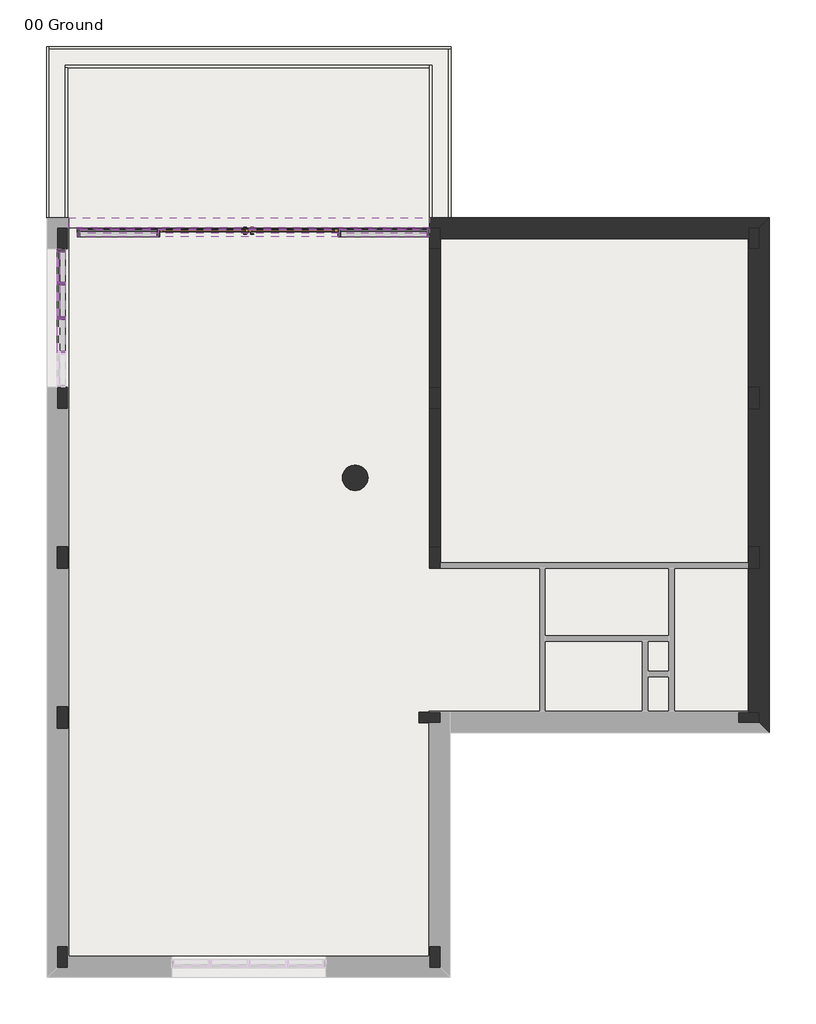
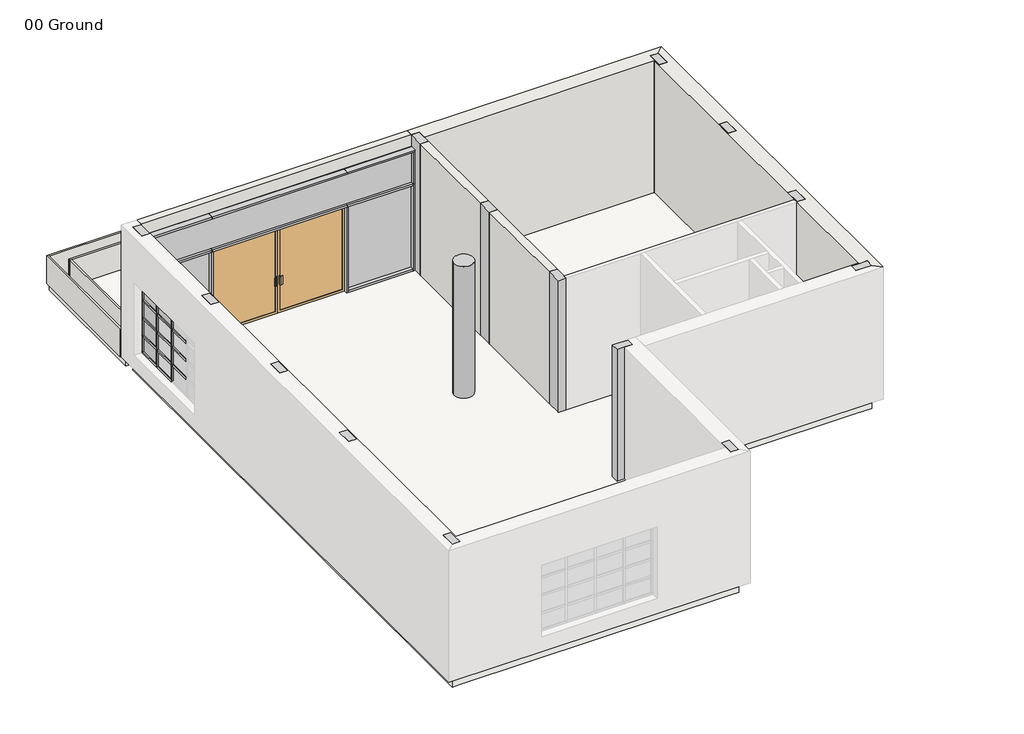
# One storey, part 2 of 2: 40 members, 15 columns, 11 walls, 8 plates, 3 slabs, 1 door.
"""IFC4 building model written with IfcOpenShell, lengths in millimetres."""

from ifc_helpers import new_model, si_unit, point, frame, frame_2d, origin, origin_with_axes, place, context, project, spatial, polyline, circle_curve, trimmed, segment, composite_curve, outline, extrude, faceted_brep, transform, mapped, element, save
from components import m_door_curtain_wall_double_storefront_m_door_curtain_wall_edb91ac7, rectangular_mullion_50_x_150mm_b8963a12, rectangular_mullion_50_x_150mm_ca64fab8, rectangular_mullion_50_x_150mm_c8600b0d, rectangular_mullion_50_x_150mm_7893aaae, rectangular_mullion_50_x_150mm_57f910c3, rectangular_mullion_50_x_150mm_ec782ea6, rectangular_mullion_50_x_150mm_8753ce05, rectangular_mullion_50_x_150mm_324a6438, rectangular_mullion_50_x_150mm_5618a3b2, rectangular_mullion_50_x_150mm_9d7ed0e7, rectangular_mullion_50_x_150mm_3942d5f1, rectangular_mullion_50_x_150mm_75048c14, rectangular_mullion_50_x_150mm_129a33a7, rectangular_mullion_50_x_150mm_05a43cda, rectangular_mullion_50_x_150mm_89c22e8d, rectangular_mullion_50_x_150mm_42d59fea, rectangular_mullion_50_x_150mm_da1b811e, rectangular_mullion_50_x_150mm_f26db0f6, rectangular_mullion_50_x_150mm_6f1e2b5c, system_panel_glazed_18425fd7, system_panel_glazed_f545c6ae, system_panel_glazed_1a6db426, system_panel_glazed_5c27190a, system_panel_glazed_2c1124f0, system_panel_solid_60e6722b

model = new_model("IFC4")

# Units and contexts
model_context = context("Model", 3, world=origin())
ifc_project = project(units=[si_unit("LENGTHUNIT", "METRE", prefix="MILLI")], contexts=[model_context])

# Site, building, storey
site = spatial("IfcSite", under=ifc_project)
building = spatial("IfcBuilding", under=site)
storey = spatial("IfcBuildingStorey", under=building, Name="00 Ground", Elevation=0.0)

# Columns
placement = place(None, origin())
element("IfcColumn", 1, ObjectType="M_Concrete-Rectangular-Column : 200 x 400mm", at=placement, inside=storey, context=model_context, shape_type="Brep", body=[
    faceted_brep([(-8122.5407999, 6337.2898352, 0.0), (-8122.5407999, 5937.2898352, 0.0), (-8322.5407999, 5937.2898352, 0.0), (-8322.5407999, 6337.2898352, 0.0), (-8122.5407999, 6337.2898352, 3500.0), (-8122.5407999, 5937.2898352, 3500.0), (-8122.5407999, 5937.2898352, 3200.0), (-8122.5407999, 5937.2898352, 2300.0), (-8122.5407999, 5937.2898352, 400.0), (-8122.5407999, 6337.2898352, 3200.0), (-8322.5407999, 5937.2898352, 3500.0), (-8322.5407999, 5937.2898352, 2300.0), (-8322.5407999, 5937.2898352, 400.0), (-8322.5407999, 6337.2898352, 3500.0)], [[[0, 1, 2, 3]], [[4, 5, 6, 7, 8, 1, 0, 9]], [[5, 10, 11, 12, 2, 1, 8, 7, 6]], [[10, 13, 3, 2, 12, 11]], [[13, 4, 9, 0, 3]], [[4, 13, 10, 5]]]),
])
element("IfcColumn", 2, ObjectType="M_Concrete-Rectangular-Column : 200 x 400mm", at=placement, inside=storey, context=model_context, shape_type="Brep", body=[
    faceted_brep([(-8122.5407999, 3337.2898352, 0.0), (-8122.5407999, 2937.2898352, 0.0), (-8322.5407999, 2937.2898352, 0.0), (-8322.5407999, 3337.2898352, 0.0), (-8122.5407999, 3337.2898352, 3500.0), (-8122.5407999, 2937.2898352, 3500.0), (-8122.5407999, 3337.2898352, 400.0), (-8122.5407999, 3337.2898352, 2300.0), (-8322.5407999, 2937.2898352, 3500.0), (-8322.5407999, 3337.2898352, 3500.0), (-8322.5407999, 3337.2898352, 2300.0), (-8322.5407999, 3337.2898352, 400.0)], [[[0, 1, 2, 3]], [[4, 5, 1, 0, 6, 7]], [[5, 8, 2, 1]], [[8, 9, 10, 11, 3, 2]], [[9, 4, 7, 6, 0, 3, 11, 10]], [[4, 9, 8, 5]]]),
])
element("IfcColumn", 3, ObjectType="M_Concrete-Rectangular-Column : 200 x 400mm", at=placement, inside=storey, context=model_context, shape_type="SweptSolid", body=[
    extrude(outline(polyline([(-8122.5407999, 337.2898352), (-8122.5407999, -62.7101648), (-8322.5407999, -62.7101648), (-8322.5407999, 337.2898352), (-8122.5407999, 337.2898352)])), origin_with_axes(), (0.0, 0.0, 1.0), 3500.0),
])
element("IfcColumn", 4, ObjectType="M_Concrete-Rectangular-Column : 200 x 400mm", at=placement, inside=storey, context=model_context, shape_type="SweptSolid", body=[
    extrude(outline(polyline([(-8122.5407999, -2662.7101648), (-8122.5407999, -3062.7101648), (-8322.5407999, -3062.7101648), (-8322.5407999, -2662.7101648), (-8122.5407999, -2662.7101648)])), origin_with_axes(), (0.0, 0.0, 1.0), 3500.0),
])
element("IfcColumn", 5, ObjectType="M_Concrete-Rectangular-Column : 200 x 400mm", at=placement, inside=storey, context=model_context, shape_type="SweptSolid", body=[
    extrude(outline(polyline([(-1122.5407999, 337.2898352), (-1122.5407999, -62.7101648), (-1322.5407999, -62.7101648), (-1322.5407999, 337.2898352), (-1122.5407999, 337.2898352)])), origin_with_axes(), (0.0, 0.0, 1.0), 3500.0),
])
element("IfcColumn", 6, ObjectType="M_Concrete-Rectangular-Column : 200 x 400mm", at=placement, inside=storey, context=model_context, shape_type="Brep", body=[
    faceted_brep([(-1522.5407999, -2762.7101648, 0.0), (-1335.5407999, -2762.7101648, 0.0), (-1122.5407999, -2762.7101648, 0.0), (-1122.5407999, -2962.7101648, 0.0), (-1335.5407999, -2962.7101648, 0.0), (-1522.5407999, -2962.7101648, 0.0), (-1522.5407999, -2762.7101648, 3500.0), (-1335.5407999, -2762.7101648, 3500.0), (-1122.5407999, -2762.7101648, 3500.0), (-1122.5407999, -2962.7101648, 3500.0), (-1335.5407999, -2962.7101648, 3500.0), (-1522.5407999, -2962.7101648, 3500.0)], [[[0, 1, 2, 3, 4, 5]], [[6, 7, 8, 2, 1, 0]], [[8, 9, 3, 2]], [[9, 10, 11, 5, 4, 3]], [[11, 6, 0, 5]], [[6, 11, 10, 9, 8, 7]]]),
])
element("IfcColumn", 7, ObjectType="M_Concrete-Rectangular-Column : 200 x 400mm", at=placement, inside=storey, context=model_context, shape_type="Brep", body=[
    faceted_brep([(4877.4592001, 6337.2898352, 0.0), (4877.4592001, 5937.2898352, 0.0), (4677.4592001, 5937.2898352, 0.0), (4677.4592001, 6137.2898352, 0.0), (4677.4592001, 6337.2898352, 0.0), (4877.4592001, 6337.2898352, 3500.0), (4877.4592001, 5937.2898352, 3500.0), (4677.4592001, 5937.2898352, 3500.0), (4677.4592001, 6137.2898352, 3500.0), (4677.4592001, 6337.2898352, 3500.0)], [[[0, 1, 2, 3, 4]], [[5, 6, 1, 0]], [[6, 7, 2, 1]], [[7, 8, 9, 4, 3, 2]], [[9, 5, 0, 4]], [[5, 9, 8, 7, 6]]]),
])
element("IfcColumn", 8, ObjectType="M_Concrete-Rectangular-Column : 200 x 400mm", at=placement, inside=storey, context=model_context, shape_type="Brep", body=[
    faceted_brep([(-1122.5407999, 6337.2898352, 0.0), (-1122.5407999, 6124.2898352, 0.0), (-1122.5407999, 5937.2898352, 0.0), (-1322.5407999, 5937.2898352, 0.0), (-1322.5407999, 6337.2898352, 0.0), (-1122.5407999, 6337.2898352, 3500.0), (-1122.5407999, 6124.2898352, 3500.0), (-1122.5407999, 5937.2898352, 3500.0), (-1322.5407999, 5937.2898352, 3500.0), (-1322.5407999, 6337.2898352, 3500.0)], [[[0, 1, 2, 3, 4]], [[5, 6, 7, 2, 1, 0]], [[7, 8, 3, 2]], [[8, 9, 4, 3]], [[9, 5, 0, 4]], [[5, 9, 8, 7, 6]]]),
])
element("IfcColumn", 9, ObjectType="M_Concrete-Rectangular-Column : 200 x 400mm", at=placement, inside=storey, context=model_context, shape_type="SweptSolid", body=[
    extrude(outline(polyline([(-1122.5407999, 3337.2898352), (-1122.5407999, 2937.2898352), (-1322.5407999, 2937.2898352), (-1322.5407999, 3337.2898352), (-1122.5407999, 3337.2898352)])), origin_with_axes(), (0.0, 0.0, 1.0), 3500.0),
])
element("IfcColumn", 10, ObjectType="M_Concrete-Rectangular-Column : 200 x 400mm", at=placement, inside=storey, context=model_context, shape_type="SweptSolid", body=[
    extrude(outline(polyline([(4877.4592001, 3337.2898352), (4877.4592001, 2937.2898352), (4677.4592001, 2937.2898352), (4677.4592001, 3337.2898352), (4877.4592001, 3337.2898352)])), origin_with_axes(), (0.0, 0.0, 1.0), 3500.0),
])
element("IfcColumn", 11, ObjectType="M_Concrete-Rectangular-Column : 200 x 400mm", at=placement, inside=storey, context=model_context, shape_type="Brep", body=[
    faceted_brep([(4477.4592001, -2762.7101648, 0.0), (4677.4592001, -2762.7101648, 0.0), (4877.4592001, -2762.7101648, 0.0), (4877.4592001, -2962.7101648, 0.0), (4477.4592001, -2962.7101648, 0.0), (4477.4592001, -2762.7101648, 3500.0), (4677.4592001, -2762.7101648, 3500.0), (4877.4592001, -2762.7101648, 3500.0), (4877.4592001, -2962.7101648, 3500.0), (4477.4592001, -2962.7101648, 3500.0)], [[[0, 1, 2, 3, 4]], [[5, 6, 7, 2, 1, 0]], [[7, 8, 3, 2]], [[8, 9, 4, 3]], [[9, 5, 0, 4]], [[5, 9, 8, 7, 6]]]),
])
element("IfcColumn", 12, ObjectType="M_Concrete-Rectangular-Column : 200 x 400mm", at=placement, inside=storey, context=model_context, shape_type="SweptSolid", body=[
    extrude(outline(polyline([(4677.4592001, -62.7101648), (4677.4592001, 337.2898352), (4877.4592001, 337.2898352), (4877.4592001, -62.7101648), (4677.4592001, -62.7101648)])), origin_with_axes(), (0.0, 0.0, 1.0), 3500.0),
])
element("IfcColumn", 13, ObjectType="M_Concrete-Rectangular-Column : 200 x 400mm", at=placement, inside=storey, context=model_context, shape_type="Brep", body=[
    faceted_brep([(-8122.5407999, -7162.7101648, 0.0), (-8122.5407999, -7362.7101648, 0.0), (-8122.5407999, -7562.7101648, 0.0), (-8322.5407999, -7562.7101648, 0.0), (-8322.5407999, -7162.7101648, 0.0), (-8122.5407999, -7162.7101648, 3500.0), (-8122.5407999, -7362.7101648, 3500.0), (-8122.5407999, -7562.7101648, 3500.0), (-8322.5407999, -7562.7101648, 3500.0), (-8322.5407999, -7162.7101648, 3500.0)], [[[0, 1, 2, 3, 4]], [[5, 6, 7, 2, 1, 0]], [[7, 8, 3, 2]], [[8, 9, 4, 3]], [[9, 5, 0, 4]], [[5, 9, 8, 7, 6]]]),
])
element("IfcColumn", 14, ObjectType="M_Concrete-Rectangular-Column : 200 x 400mm", at=placement, inside=storey, context=model_context, shape_type="Brep", body=[
    faceted_brep([(-1122.5407999, -7162.7101648, 0.0), (-1122.5407999, -7562.7101648, 0.0), (-1322.5407999, -7562.7101648, 0.0), (-1322.5407999, -7362.7101648, 0.0), (-1322.5407999, -7162.7101648, 0.0), (-1122.5407999, -7162.7101648, 3500.0), (-1122.5407999, -7562.7101648, 3500.0), (-1322.5407999, -7562.7101648, 3500.0), (-1322.5407999, -7362.7101648, 3500.0), (-1322.5407999, -7162.7101648, 3500.0)], [[[0, 1, 2, 3, 4]], [[5, 6, 1, 0]], [[6, 7, 2, 1]], [[7, 8, 9, 4, 3, 2]], [[9, 5, 0, 4]], [[5, 9, 8, 7, 6]]]),
])
element("IfcColumn", 15, ObjectType="M_Concrete-Round-Column : 480mm", at=placement, inside=storey, context=model_context, shape_type="SweptSolid", body=[
    extrude(outline(composite_curve([segment(trimmed(circle_curve(frame_2d((-2722.5407999, 1637.2898352)), 240.0), [point((-2962.5407999, 1637.2898352))], [point((-2482.5407999, 1637.2898352))], False, "CARTESIAN"), True, "CONTINUOUS"), segment(trimmed(circle_curve(frame_2d((-2722.5407999, 1637.2898352)), 240.0), [point((-2482.5407999, 1637.2898352))], [point((-2962.5407999, 1637.2898352))], False, "CARTESIAN"), True, "CONTINUOUS")], self_intersect=False)), origin_with_axes(), (0.0, 0.0, 1.0), 3500.0),
])

# Door
m_door_curtain_wall_double_storefront_m_door_curtain_wall_shape = m_door_curtain_wall_double_storefront_m_door_curtain_wall_edb91ac7(model_context)
element("IfcDoor", 16, ObjectType="M_Door-Curtain-Wall-Double-Storefront : M_Door-Curtain-Wall-Double-Storefront", at=placement, inside=storey, context=model_context, shape_type="MappedRepresentation", body=[
    mapped(m_door_curtain_wall_double_storefront_m_door_curtain_wall_shape, transform((-4722.5407999, 6242.2898352, 0.0), x_axis=(1.0, 0.0, 0.0), y_axis=(0.0, 1.0, 0.0), z_axis=(0.0, 0.0, 1.0))),
])

# Members
rectangular_mullion_50_x_150mm_shape = rectangular_mullion_50_x_150mm_b8963a12(model_context)
element("IfcMember", 17, ObjectType="Rectangular Mullion : 50 x 150mm", at=placement, inside=storey, context=model_context, shape_type="MappedRepresentation", body=[
    mapped(rectangular_mullion_50_x_150mm_shape, transform((-2997.5407999, 6242.2898352, 0.0), x_axis=(0.0, 0.0, -1.0), y_axis=(0.0, -1.0, 0.0), z_axis=(-1.0, 0.0, 0.0))),
])
rectangular_mullion_50_x_150mm_2_shape = rectangular_mullion_50_x_150mm_ca64fab8(model_context)
element("IfcMember", 18, ObjectType="Rectangular Mullion : 50 x 150mm", at=placement, inside=storey, context=model_context, shape_type="MappedRepresentation", body=[
    mapped(rectangular_mullion_50_x_150mm_2_shape, transform((-3022.5407999, 6242.2898352, 3200.0), x_axis=(0.0, 0.0, 1.0), y_axis=(0.0, -1.0, 0.0), z_axis=(1.0, 0.0, 0.0))),
])
rectangular_mullion_50_x_150mm_3_shape = rectangular_mullion_50_x_150mm_c8600b0d(model_context)
element("IfcMember", 19, ObjectType="Rectangular Mullion : 50 x 150mm", at=placement, inside=storey, context=model_context, shape_type="MappedRepresentation", body=[
    mapped(rectangular_mullion_50_x_150mm_3_shape, transform((-1322.5407999, 6242.2898352, 3200.0), x_axis=(0.0, 0.0, 1.0), y_axis=(0.0, -1.0, 0.0), z_axis=(1.0, 0.0, 0.0))),
])
rectangular_mullion_50_x_150mm_4_shape = rectangular_mullion_50_x_150mm_7893aaae(model_context)
element("IfcMember", 20, ObjectType="Rectangular Mullion : 50 x 150mm", at=placement, inside=storey, context=model_context, shape_type="MappedRepresentation", body=[
    mapped(rectangular_mullion_50_x_150mm_4_shape, transform((-1372.5407999, 6242.2898352, 2300.0), x_axis=(0.0, 0.0, 1.0), y_axis=(0.0, -1.0, 0.0), z_axis=(1.0, 0.0, 0.0))),
])
rectangular_mullion_50_x_150mm_5_shape = rectangular_mullion_50_x_150mm_57f910c3(model_context)
element("IfcMember", 21, ObjectType="Rectangular Mullion : 50 x 150mm", at=placement, inside=storey, context=model_context, shape_type="MappedRepresentation", body=[
    mapped(rectangular_mullion_50_x_150mm_5_shape, transform((-3022.5407999, 6242.2898352, 2300.0), x_axis=(0.0, 0.0, 1.0), y_axis=(0.0, -1.0, 0.0), z_axis=(1.0, 0.0, 0.0))),
])
rectangular_mullion_50_x_150mm_6_shape = rectangular_mullion_50_x_150mm_ec782ea6(model_context)
element("IfcMember", 22, ObjectType="Rectangular Mullion : 50 x 150mm", at=placement, inside=storey, context=model_context, shape_type="MappedRepresentation", body=[
    mapped(rectangular_mullion_50_x_150mm_6_shape, transform((-6422.5407999, 6242.2898352, 0.0), x_axis=(1.0, 0.0, 0.0), y_axis=(0.0, -1.0, 0.0), z_axis=(0.0, 0.0, -1.0))),
])
element("IfcMember", 23, ObjectType="Rectangular Mullion : 50 x 150mm", at=placement, inside=storey, context=model_context, shape_type="MappedRepresentation", body=[
    mapped(rectangular_mullion_50_x_150mm_6_shape, transform((-3022.5407999, 6242.2898352, 0.0), x_axis=(1.0, 0.0, 0.0), y_axis=(0.0, -1.0, 0.0), z_axis=(0.0, 0.0, -1.0))),
])
rectangular_mullion_50_x_150mm_7_shape = rectangular_mullion_50_x_150mm_8753ce05(model_context)
element("IfcMember", 24, ObjectType="Rectangular Mullion : 50 x 150mm", at=placement, inside=storey, context=model_context, shape_type="MappedRepresentation", body=[
    mapped(rectangular_mullion_50_x_150mm_7_shape, transform((-1322.5407999, 6242.2898352, 0.0), x_axis=(1.0, 0.0, 0.0), y_axis=(0.0, -1.0, 0.0), z_axis=(0.0, 0.0, -1.0))),
])
rectangular_mullion_50_x_150mm_8_shape = rectangular_mullion_50_x_150mm_324a6438(model_context)
element("IfcMember", 25, ObjectType="Rectangular Mullion : 50 x 150mm", at=placement, inside=storey, context=model_context, shape_type="MappedRepresentation", body=[
    mapped(rectangular_mullion_50_x_150mm_8_shape, transform((-7946.0407999, 6242.2898352, 3150.0), x_axis=(-1.0, 0.0, 0.0), y_axis=(0.0, -1.0, 0.0), z_axis=(0.0, 0.0, 1.0))),
])
element("IfcMember", 26, ObjectType="Rectangular Mullion : 50 x 150mm", at=placement, inside=storey, context=model_context, shape_type="MappedRepresentation", body=[
    mapped(rectangular_mullion_50_x_150mm_8_shape, transform((-1322.5407999, 6242.2898352, 2300.0), x_axis=(1.0, 0.0, 0.0), y_axis=(0.0, -1.0, 0.0), z_axis=(0.0, 0.0, -1.0))),
])
element("IfcMember", 27, ObjectType="Rectangular Mullion : 50 x 150mm", at=placement, inside=storey, context=model_context, shape_type="MappedRepresentation", body=[
    mapped(rectangular_mullion_50_x_150mm_7_shape, transform((-7946.0407999, 6242.2898352, 2300.0), x_axis=(-1.0, 0.0, 0.0), y_axis=(0.0, -1.0, 0.0), z_axis=(0.0, 0.0, 1.0))),
])
rectangular_mullion_50_x_150mm_9_shape = rectangular_mullion_50_x_150mm_5618a3b2(model_context)
element("IfcMember", 28, ObjectType="Rectangular Mullion : 50 x 150mm", at=placement, inside=storey, context=model_context, shape_type="MappedRepresentation", body=[
    mapped(rectangular_mullion_50_x_150mm_9_shape, transform((-8247.5407999, 5937.2898352, 2300.0), x_axis=(0.0, 0.0, 1.0), y_axis=(1.0, 0.0, 0.0), z_axis=(0.0, 1.0, 0.0))),
])
rectangular_mullion_50_x_150mm_10_shape = rectangular_mullion_50_x_150mm_9d7ed0e7(model_context)
element("IfcMember", 29, ObjectType="Rectangular Mullion : 50 x 150mm", at=placement, inside=storey, context=model_context, shape_type="MappedRepresentation", body=[
    mapped(rectangular_mullion_50_x_150mm_10_shape, transform((-8247.5407999, 4637.2898352, 2300.0), x_axis=(0.0, 0.0, 1.0), y_axis=(1.0, 0.0, 0.0), z_axis=(0.0, 1.0, 0.0))),
])
element("IfcMember", 30, ObjectType="Rectangular Mullion : 50 x 150mm", at=placement, inside=storey, context=model_context, shape_type="MappedRepresentation", body=[
    mapped(rectangular_mullion_50_x_150mm_10_shape, transform((-8247.5407999, 5287.2898351, 2300.0), x_axis=(0.0, 0.0, 1.0), y_axis=(1.0, 0.0, 0.0), z_axis=(0.0, 1.0, 0.0))),
])
element("IfcMember", 31, ObjectType="Rectangular Mullion : 50 x 150mm", at=placement, inside=storey, context=model_context, shape_type="MappedRepresentation", body=[
    mapped(rectangular_mullion_50_x_150mm_10_shape, transform((-8247.5407999, 4637.2898352, 400.0), x_axis=(0.0, 0.0, -1.0), y_axis=(1.0, 0.0, 0.0), z_axis=(0.0, -1.0, 0.0))),
])
element("IfcMember", 32, ObjectType="Rectangular Mullion : 50 x 150mm", at=placement, inside=storey, context=model_context, shape_type="MappedRepresentation", body=[
    mapped(rectangular_mullion_50_x_150mm_9_shape, transform((-8247.5407999, 5287.2898351, 400.0), x_axis=(0.0, 0.0, -1.0), y_axis=(1.0, 0.0, 0.0), z_axis=(0.0, -1.0, 0.0))),
])
rectangular_mullion_50_x_150mm_11_shape = rectangular_mullion_50_x_150mm_3942d5f1(model_context)
element("IfcMember", 33, ObjectType="Rectangular Mullion : 50 x 150mm", at=placement, inside=storey, context=model_context, shape_type="MappedRepresentation", body=[
    mapped(rectangular_mullion_50_x_150mm_11_shape, transform((-8247.5407999, 5887.2898352, 875.0), x_axis=(0.0, 0.0, 1.0), y_axis=(1.0, 0.0, 0.0), z_axis=(0.0, 1.0, 0.0))),
])
element("IfcMember", 34, ObjectType="Rectangular Mullion : 50 x 150mm", at=placement, inside=storey, context=model_context, shape_type="MappedRepresentation", body=[
    mapped(rectangular_mullion_50_x_150mm_11_shape, transform((-8247.5407999, 5887.2898352, 1350.0), x_axis=(0.0, 0.0, 1.0), y_axis=(1.0, 0.0, 0.0), z_axis=(0.0, 1.0, 0.0))),
])
element("IfcMember", 35, ObjectType="Rectangular Mullion : 50 x 150mm", at=placement, inside=storey, context=model_context, shape_type="MappedRepresentation", body=[
    mapped(rectangular_mullion_50_x_150mm_11_shape, transform((-8247.5407999, 5887.2898352, 1825.0), x_axis=(0.0, 0.0, 1.0), y_axis=(1.0, 0.0, 0.0), z_axis=(0.0, 1.0, 0.0))),
])
rectangular_mullion_50_x_150mm_12_shape = rectangular_mullion_50_x_150mm_75048c14(model_context)
element("IfcMember", 36, ObjectType="Rectangular Mullion : 50 x 150mm", at=placement, inside=storey, context=model_context, shape_type="MappedRepresentation", body=[
    mapped(rectangular_mullion_50_x_150mm_12_shape, transform((-8247.5407999, 4612.2898352, 875.0), x_axis=(0.0, 0.0, 1.0), y_axis=(1.0, 0.0, 0.0), z_axis=(0.0, 1.0, 0.0))),
])
element("IfcMember", 37, ObjectType="Rectangular Mullion : 50 x 150mm", at=placement, inside=storey, context=model_context, shape_type="MappedRepresentation", body=[
    mapped(rectangular_mullion_50_x_150mm_12_shape, transform((-8247.5407999, 5262.2898351, 875.0), x_axis=(0.0, 0.0, 1.0), y_axis=(1.0, 0.0, 0.0), z_axis=(0.0, 1.0, 0.0))),
])
element("IfcMember", 38, ObjectType="Rectangular Mullion : 50 x 150mm", at=placement, inside=storey, context=model_context, shape_type="MappedRepresentation", body=[
    mapped(rectangular_mullion_50_x_150mm_12_shape, transform((-8247.5407999, 4612.2898352, 1350.0), x_axis=(0.0, 0.0, 1.0), y_axis=(1.0, 0.0, 0.0), z_axis=(0.0, 1.0, 0.0))),
])
element("IfcMember", 39, ObjectType="Rectangular Mullion : 50 x 150mm", at=placement, inside=storey, context=model_context, shape_type="MappedRepresentation", body=[
    mapped(rectangular_mullion_50_x_150mm_12_shape, transform((-8247.5407999, 5262.2898351, 1350.0), x_axis=(0.0, 0.0, 1.0), y_axis=(1.0, 0.0, 0.0), z_axis=(0.0, 1.0, 0.0))),
])
element("IfcMember", 40, ObjectType="Rectangular Mullion : 50 x 150mm", at=placement, inside=storey, context=model_context, shape_type="MappedRepresentation", body=[
    mapped(rectangular_mullion_50_x_150mm_12_shape, transform((-8247.5407999, 4612.2898352, 1825.0), x_axis=(0.0, 0.0, 1.0), y_axis=(1.0, 0.0, 0.0), z_axis=(0.0, 1.0, 0.0))),
])
element("IfcMember", 41, ObjectType="Rectangular Mullion : 50 x 150mm", at=placement, inside=storey, context=model_context, shape_type="MappedRepresentation", body=[
    mapped(rectangular_mullion_50_x_150mm_12_shape, transform((-8247.5407999, 5262.2898351, 1825.0), x_axis=(0.0, 0.0, 1.0), y_axis=(1.0, 0.0, 0.0), z_axis=(0.0, 1.0, 0.0))),
])
rectangular_mullion_50_x_150mm_13_shape = rectangular_mullion_50_x_150mm_129a33a7(model_context)
element("IfcMember", 42, ObjectType="Rectangular Mullion : 50 x 150mm", at=placement, inside=storey, context=model_context, shape_type="MappedRepresentation", body=[
    mapped(rectangular_mullion_50_x_150mm_13_shape, transform((-8247.5407999, 4637.2898352, 450.0), x_axis=(0.0, 1.0, 0.0), y_axis=(1.0, 0.0, 0.0), z_axis=(0.0, 0.0, -1.0))),
])
element("IfcMember", 43, ObjectType="Rectangular Mullion : 50 x 150mm", at=placement, inside=storey, context=model_context, shape_type="MappedRepresentation", body=[
    mapped(rectangular_mullion_50_x_150mm_13_shape, transform((-8247.5407999, 5287.2898351, 450.0), x_axis=(0.0, 1.0, 0.0), y_axis=(1.0, 0.0, 0.0), z_axis=(0.0, 0.0, -1.0))),
])
rectangular_mullion_50_x_150mm_14_shape = rectangular_mullion_50_x_150mm_05a43cda(model_context)
element("IfcMember", 44, ObjectType="Rectangular Mullion : 50 x 150mm", at=placement, inside=storey, context=model_context, shape_type="MappedRepresentation", body=[
    mapped(rectangular_mullion_50_x_150mm_14_shape, transform((-8247.5407999, 4637.2898352, 875.0), x_axis=(0.0, 1.0, 0.0), y_axis=(1.0, 0.0, 0.0), z_axis=(0.0, 0.0, -1.0))),
])
element("IfcMember", 45, ObjectType="Rectangular Mullion : 50 x 150mm", at=placement, inside=storey, context=model_context, shape_type="MappedRepresentation", body=[
    mapped(rectangular_mullion_50_x_150mm_14_shape, transform((-8247.5407999, 5287.2898351, 875.0), x_axis=(0.0, 1.0, 0.0), y_axis=(1.0, 0.0, 0.0), z_axis=(0.0, 0.0, -1.0))),
])
element("IfcMember", 46, ObjectType="Rectangular Mullion : 50 x 150mm", at=placement, inside=storey, context=model_context, shape_type="MappedRepresentation", body=[
    mapped(rectangular_mullion_50_x_150mm_14_shape, transform((-8247.5407999, 4637.2898352, 1350.0), x_axis=(0.0, 1.0, 0.0), y_axis=(1.0, 0.0, 0.0), z_axis=(0.0, 0.0, -1.0))),
])
element("IfcMember", 47, ObjectType="Rectangular Mullion : 50 x 150mm", at=placement, inside=storey, context=model_context, shape_type="MappedRepresentation", body=[
    mapped(rectangular_mullion_50_x_150mm_14_shape, transform((-8247.5407999, 5287.2898351, 1350.0), x_axis=(0.0, 1.0, 0.0), y_axis=(1.0, 0.0, 0.0), z_axis=(0.0, 0.0, -1.0))),
])
element("IfcMember", 48, ObjectType="Rectangular Mullion : 50 x 150mm", at=placement, inside=storey, context=model_context, shape_type="MappedRepresentation", body=[
    mapped(rectangular_mullion_50_x_150mm_13_shape, transform((-8247.5407999, 4637.2898352, 1825.0), x_axis=(0.0, 1.0, 0.0), y_axis=(1.0, 0.0, 0.0), z_axis=(0.0, 0.0, -1.0))),
])
element("IfcMember", 49, ObjectType="Rectangular Mullion : 50 x 150mm", at=placement, inside=storey, context=model_context, shape_type="MappedRepresentation", body=[
    mapped(rectangular_mullion_50_x_150mm_13_shape, transform((-8247.5407999, 5287.2898351, 1825.0), x_axis=(0.0, 1.0, 0.0), y_axis=(1.0, 0.0, 0.0), z_axis=(0.0, 0.0, -1.0))),
])
rectangular_mullion_50_x_150mm_15_shape = rectangular_mullion_50_x_150mm_89c22e8d(model_context)
element("IfcMember", 50, ObjectType="Rectangular Mullion : 50 x 150mm", at=placement, inside=storey, context=model_context, shape_type="MappedRepresentation", body=[
    mapped(rectangular_mullion_50_x_150mm_15_shape, transform((-8247.5407999, 5937.2898352, 450.0), x_axis=(0.0, 1.0, 0.0), y_axis=(1.0, 0.0, 0.0), z_axis=(0.0, 0.0, -1.0))),
])
rectangular_mullion_50_x_150mm_16_shape = rectangular_mullion_50_x_150mm_42d59fea(model_context)
element("IfcMember", 51, ObjectType="Rectangular Mullion : 50 x 150mm", at=placement, inside=storey, context=model_context, shape_type="MappedRepresentation", body=[
    mapped(rectangular_mullion_50_x_150mm_16_shape, transform((-8247.5407999, 5937.2898352, 875.0), x_axis=(0.0, 1.0, 0.0), y_axis=(1.0, 0.0, 0.0), z_axis=(0.0, 0.0, -1.0))),
])
element("IfcMember", 52, ObjectType="Rectangular Mullion : 50 x 150mm", at=placement, inside=storey, context=model_context, shape_type="MappedRepresentation", body=[
    mapped(rectangular_mullion_50_x_150mm_16_shape, transform((-8247.5407999, 5937.2898352, 1350.0), x_axis=(0.0, 1.0, 0.0), y_axis=(1.0, 0.0, 0.0), z_axis=(0.0, 0.0, -1.0))),
])
element("IfcMember", 53, ObjectType="Rectangular Mullion : 50 x 150mm", at=placement, inside=storey, context=model_context, shape_type="MappedRepresentation", body=[
    mapped(rectangular_mullion_50_x_150mm_15_shape, transform((-8247.5407999, 5937.2898352, 1825.0), x_axis=(0.0, 1.0, 0.0), y_axis=(1.0, 0.0, 0.0), z_axis=(0.0, 0.0, -1.0))),
])
rectangular_mullion_50_x_150mm_17_shape = rectangular_mullion_50_x_150mm_da1b811e(model_context)
element("IfcMember", 54, ObjectType="Rectangular Mullion : 50 x 150mm", at=placement, inside=storey, context=model_context, shape_type="MappedRepresentation", body=[
    mapped(rectangular_mullion_50_x_150mm_17_shape, transform((-6422.5407999, 6242.2898352, 3200.0), x_axis=(0.0, 0.0, 1.0), y_axis=(0.0, -1.0, 0.0), z_axis=(1.0, 0.0, 0.0))),
])
rectangular_mullion_50_x_150mm_18_shape = rectangular_mullion_50_x_150mm_f26db0f6(model_context)
element("IfcMember", 55, ObjectType="Rectangular Mullion : 50 x 150mm", at=placement, inside=storey, context=model_context, shape_type="MappedRepresentation", body=[
    mapped(rectangular_mullion_50_x_150mm_18_shape, transform((-7896.0407999, 6242.2898352, 0.0), x_axis=(0.0, 0.0, -1.0), y_axis=(0.0, -1.0, 0.0), z_axis=(-1.0, 0.0, 0.0))),
])
rectangular_mullion_50_x_150mm_19_shape = rectangular_mullion_50_x_150mm_6f1e2b5c(model_context)
element("IfcMember", 56, ObjectType="Rectangular Mullion : 50 x 150mm", at=placement, inside=storey, context=model_context, shape_type="MappedRepresentation", body=[
    mapped(rectangular_mullion_50_x_150mm_19_shape, transform((-6422.5407999, 6242.2898352, 2300.0), x_axis=(0.0, 0.0, 1.0), y_axis=(0.0, -1.0, 0.0), z_axis=(1.0, 0.0, 0.0))),
])

# Plates
system_panel_glazed_shape = system_panel_glazed_18425fd7(model_context)
element("IfcPlate", 57, ObjectType="System Panel : Glazed", at=placement, inside=storey, context=model_context, shape_type="MappedRepresentation", body=[
    mapped(system_panel_glazed_shape, transform((-2185.0407999, 6242.2898352, 50.0), x_axis=(1.0, 0.0, 0.0), y_axis=(0.0, 1.0, 0.0), z_axis=(0.0, 0.0, 1.0))),
])
system_panel_glazed_2_shape = system_panel_glazed_f545c6ae(model_context)
element("IfcPlate", 58, ObjectType="System Panel : Glazed", at=placement, inside=storey, context=model_context, shape_type="MappedRepresentation", body=[
    mapped(system_panel_glazed_2_shape, transform((-8247.5407999, 5599.7898352, 450.0), x_axis=(0.0, 1.0, 0.0), y_axis=(-1.0, 0.0, 0.0), z_axis=(0.0, 0.0, 1.0))),
])
element("IfcPlate", 59, ObjectType="System Panel : Glazed", at=placement, inside=storey, context=model_context, shape_type="MappedRepresentation", body=[
    mapped(system_panel_glazed_2_shape, transform((-8247.5407999, 5599.7898352, 1850.0), x_axis=(0.0, 1.0, 0.0), y_axis=(-1.0, 0.0, 0.0), z_axis=(0.0, 0.0, 1.0))),
])
system_panel_glazed_3_shape = system_panel_glazed_1a6db426(model_context)
element("IfcPlate", 60, ObjectType="System Panel : Glazed", at=placement, inside=storey, context=model_context, shape_type="MappedRepresentation", body=[
    mapped(system_panel_glazed_3_shape, transform((-8247.5407999, 4962.2898352, 1850.0), x_axis=(0.0, 1.0, 0.0), y_axis=(-1.0, 0.0, 0.0), z_axis=(0.0, 0.0, 1.0))),
])
system_panel_glazed_4_shape = system_panel_glazed_5c27190a(model_context)
element("IfcPlate", 61, ObjectType="System Panel : Glazed", at=placement, inside=storey, context=model_context, shape_type="MappedRepresentation", body=[
    mapped(system_panel_glazed_4_shape, transform((-8247.5407999, 5599.7898352, 900.0), x_axis=(0.0, 1.0, 0.0), y_axis=(-1.0, 0.0, 0.0), z_axis=(0.0, 0.0, 1.0))),
])
element("IfcPlate", 62, ObjectType="System Panel : Glazed", at=placement, inside=storey, context=model_context, shape_type="MappedRepresentation", body=[
    mapped(system_panel_glazed_4_shape, transform((-8247.5407999, 5599.7898352, 1375.0), x_axis=(0.0, 1.0, 0.0), y_axis=(-1.0, 0.0, 0.0), z_axis=(0.0, 0.0, 1.0))),
])
system_panel_glazed_5_shape = system_panel_glazed_2c1124f0(model_context)
element("IfcPlate", 63, ObjectType="System Panel : Glazed", at=placement, inside=storey, context=model_context, shape_type="MappedRepresentation", body=[
    mapped(system_panel_glazed_5_shape, transform((-7171.7907999, 6242.2898352, 50.0), x_axis=(1.0, 0.0, 0.0), y_axis=(0.0, 1.0, 0.0), z_axis=(0.0, 0.0, 1.0))),
])
system_panel_solid_shape = system_panel_solid_60e6722b(model_context)
element("IfcPlate", 64, ObjectType="System Panel : Solid", at=placement, inside=storey, context=model_context, shape_type="MappedRepresentation", body=[
    mapped(system_panel_solid_shape, transform((-4634.2907999, 6242.2898352, 2325.0), x_axis=(1.0, 0.0, 0.0), y_axis=(0.0, 1.0, 0.0), z_axis=(0.0, 0.0, 1.0))),
])

# Slabs
element("IfcSlab", 65, ObjectType="DECK FLOOR TILES 40mm", at=placement, inside=storey, context=model_context, shape_type="SweptSolid", body=[
    extrude(outline(polyline([(-1322.5407999, 6337.2898352), (-8122.5407999, 6337.2898352), (-8122.5407999, 9337.2898352), (-1322.5407999, 9337.2898352), (-1322.5407999, 6337.2898352)])), origin_with_axes(), (0.0, 0.0, 1.0), 40.0),
])
element("IfcSlab", 66, ObjectType="Generic 300mm", at=placement, inside=storey, context=model_context, shape_type="Brep", body=[
    faceted_brep([(-8322.5407999, 6337.2898352, -300.0), (-8122.5407999, 6337.2898352, -300.0), (-1322.5407999, 6337.2898352, -300.0), (-1122.5407999, 6337.2898352, -300.0), (4677.4592001, 6337.2898352, -300.0), (4877.4592001, 6337.2898352, -300.0), (4877.4592001, 5937.2898352, -300.0), (4877.4592001, 3337.2898352, -300.0), (4877.4592001, 2937.2898352, -300.0), (4877.4592001, 337.2898352, -300.0), (4877.4592001, -62.7101648, -300.0), (4877.4592001, -2762.7101648, -300.0), (4877.4592001, -2962.7101648, -300.0), (4477.4592001, -2962.7101648, -300.0), (-1122.5407999, -2962.7101648, -300.0), (-1122.5407999, -7162.7101648, -300.0), (-1122.5407999, -7562.7101648, -300.0), (-1322.5407999, -7562.7101648, -300.0), (-8122.5407999, -7562.7101648, -300.0), (-8322.5407999, -7562.7101648, -300.0), (-8322.5407999, -7162.7101648, -300.0), (-8322.5407999, -3062.7101648, -300.0), (-8322.5407999, -2662.7101648, -300.0), (-8322.5407999, -62.7101648, -300.0), (-8322.5407999, 337.2898352, -300.0), (-8322.5407999, 2937.2898352, -300.0), (-8322.5407999, 3337.2898352, -300.0), (-8322.5407999, 5937.2898352, -300.0), (-8322.5407999, 6337.2898352, 0.0), (-8322.5407999, 5937.2898352, 0.0), (-8322.5407999, 3337.2898352, 0.0), (-8322.5407999, 2937.2898352, 0.0), (-8322.5407999, 337.2898352, 0.0), (-8322.5407999, -62.7101648, 0.0), (-8322.5407999, -2662.7101648, 0.0), (-8322.5407999, -3062.7101648, 0.0), (-8322.5407999, -7162.7101648, 0.0), (-8322.5407999, -7562.7101648, 0.0), (-8122.5407999, -7562.7101648, 0.0), (-1322.5407999, -7562.7101648, 0.0), (-1122.5407999, -7562.7101648, 0.0), (-1122.5407999, -7162.7101648, 0.0), (-1122.5407999, -2962.7101648, 0.0), (4477.4592001, -2962.7101648, 0.0), (4877.4592001, -2962.7101648, 0.0), (4877.4592001, -2762.7101648, 0.0), (4877.4592001, -62.7101648, 0.0), (4877.4592001, 337.2898352, 0.0), (4877.4592001, 2937.2898352, 0.0), (4877.4592001, 3337.2898352, 0.0), (4877.4592001, 5937.2898352, 0.0), (4877.4592001, 6337.2898352, 0.0), (4677.4592001, 6337.2898352, 0.0), (-1122.5407999, 6337.2898352, 0.0), (-1322.5407999, 6337.2898352, 0.0), (-8122.5407999, 6337.2898352, 0.0)], [[[0, 1, 2, 3, 4, 5, 6, 7, 8, 9, 10, 11, 12, 13, 14, 15, 16, 17, 18, 19, 20, 21, 22, 23, 24, 25, 26, 27]], [[28, 29, 30, 31, 32, 33, 34, 35, 36, 37, 38, 39, 40, 41, 42, 43, 44, 45, 46, 47, 48, 49, 50, 51, 52, 53, 54, 55]], [[5, 4, 3, 2, 1, 0, 28, 55, 54, 53, 52, 51]], [[12, 11, 10, 9, 8, 7, 6, 5, 51, 50, 49, 48, 47, 46, 45, 44]], [[14, 13, 12, 44, 43, 42]], [[16, 15, 14, 42, 41, 40]], [[19, 18, 17, 16, 40, 39, 38, 37]], [[0, 27, 26, 25, 24, 23, 22, 21, 20, 19, 37, 36, 35, 34, 33, 32, 31, 30, 29, 28]]]),
])
element("IfcSlab", 67, ObjectType="TERRACE SLAB 150mm", at=placement, inside=storey, context=model_context, shape_type="SweptSolid", body=[
    extrude(outline(polyline([(-967.5407999, 9692.2898352), (-967.5407999, 6522.2898352), (-1322.5407999, 6522.2898352), (-1322.5407999, 6337.2898352), (-8109.5407999, 6337.2898352), (-8109.5407999, 6359.7898352), (-8477.5407999, 6359.7898352), (-8477.5407999, 9692.2898352), (-967.5407999, 9692.2898352)])), frame((0.0, 0.0, -150.0), z_axis=(0.0, 0.0, 1.0), x_axis=(1.0, 0.0, 0.0)), (0.0, 0.0, 1.0), 150.0),
])

# Walls
element("IfcWall", 68, ObjectType="45T-25linea", at=placement, inside=storey, context=model_context, shape_type="SweptSolid", body=[
    extrude(outline(polyline([(-967.5407999, 6409.7898352), (-1122.5407999, 6409.7898352), (-1122.5407999, 6454.7898352), (-967.5407999, 6454.7898352), (-967.5407999, 6409.7898352)])), origin_with_axes(), (0.0, 0.0, 1.0), 750.0),
])
element("IfcWall", 69, ObjectType="45T-25linea", at=placement, inside=storey, context=model_context, shape_type="Brep", body=[
    faceted_brep([(-8477.5407999, 6522.2898352, 0.0), (-8477.5407999, 9692.2898352, 0.0), (-8477.5407999, 9737.2898352, 0.0), (-8477.5407999, 9737.2898352, 750.0), (-8477.5407999, 9692.2898352, 750.0), (-8477.5407999, 6522.2898352, 750.0), (-8522.5407999, 6522.2898352, 0.0), (-8522.5407999, 6522.2898352, 750.0), (-8522.5407999, 9737.2898352, 750.0), (-8522.5407999, 9737.2898352, 0.0)], [[[0, 1, 2, 3, 4, 5]], [[6, 7, 8, 9]], [[2, 1, 0, 6, 9]], [[5, 4, 3, 8, 7]], [[0, 5, 7, 6]], [[3, 2, 9, 8]]]),
])
element("IfcWall", 70, ObjectType="45T-25linea", at=placement, inside=storey, context=model_context, shape_type="Brep", body=[
    faceted_brep([(-8477.5407999, 9692.2898352, 0.0), (-967.5407999, 9692.2898352, 0.0), (-922.5407999, 9692.2898352, 0.0), (-922.5407999, 9692.2898352, 750.0), (-967.5407999, 9692.2898352, 750.0), (-8477.5407999, 9692.2898352, 750.0), (-8477.5407999, 9737.2898352, 0.0), (-8477.5407999, 9737.2898352, 750.0), (-922.5407999, 9737.2898352, 750.0), (-922.5407999, 9737.2898352, 0.0)], [[[0, 1, 2, 3, 4, 5]], [[6, 7, 8, 9]], [[2, 1, 0, 6, 9]], [[5, 4, 3, 8, 7]], [[0, 5, 7, 6]], [[3, 2, 9, 8]]]),
])
element("IfcWall", 71, ObjectType="45T-25linea", at=placement, inside=storey, context=model_context, shape_type="SweptSolid", body=[
    extrude(outline(polyline([(-967.5407999, 6522.2898352), (-967.5407999, 9692.2898352), (-922.5407999, 9692.2898352), (-922.5407999, 6522.2898352), (-967.5407999, 6522.2898352)])), origin_with_axes(), (0.0, 0.0, 1.0), 750.0),
])
element("IfcWall", 72, ObjectType="45T-25linea", at=placement, inside=storey, context=model_context, shape_type="Brep", body=[
    faceted_brep([(-1277.5407999, 6522.2898352, 0.0), (-1277.5407999, 9382.2898352, 0.0), (-1277.5407999, 9382.2898352, 750.0), (-1277.5407999, 6522.2898352, 750.0), (-1322.5407999, 6522.2898352, 0.0), (-1322.5407999, 6522.2898352, 750.0), (-1322.5407999, 9337.2898352, 750.0), (-1322.5407999, 9382.2898352, 750.0), (-1322.5407999, 9382.2898352, 0.0), (-1322.5407999, 9337.2898352, 0.0)], [[[0, 1, 2, 3]], [[4, 5, 6, 7, 8, 9]], [[1, 0, 4, 9, 8]], [[3, 2, 7, 6, 5]], [[0, 3, 5, 4]], [[2, 1, 8, 7]]]),
])
element("IfcWall", 73, ObjectType="45T-25linea", at=placement, inside=storey, context=model_context, shape_type="Brep", body=[
    faceted_brep([(-1322.5407999, 9382.2898352, 0.0), (-8167.5407999, 9382.2898352, 0.0), (-8167.5407999, 9382.2898352, 750.0), (-1322.5407999, 9382.2898352, 750.0), (-1322.5407999, 9337.2898352, 0.0), (-1322.5407999, 9337.2898352, 750.0), (-8122.5407999, 9337.2898352, 750.0), (-8167.5407999, 9337.2898352, 750.0), (-8167.5407999, 9337.2898352, 0.0), (-8122.5407999, 9337.2898352, 0.0)], [[[0, 1, 2, 3]], [[4, 5, 6, 7, 8, 9]], [[1, 0, 4, 9, 8]], [[3, 2, 7, 6, 5]], [[0, 3, 5, 4]], [[2, 1, 8, 7]]]),
])
element("IfcWall", 74, ObjectType="45T-25linea", at=placement, inside=storey, context=model_context, shape_type="SweptSolid", body=[
    extrude(outline(polyline([(-8167.5407999, 6522.2898352), (-8167.5407999, 9337.2898352), (-8122.5407999, 9337.2898352), (-8122.5407999, 6522.2898352), (-8167.5407999, 6522.2898352)])), origin_with_axes(), (0.0, 0.0, 1.0), 750.0),
])
element("IfcWall", 75, ObjectType="Exterior - Brick Finish 20mm", at=placement, inside=storey, context=model_context, shape_type="SweptSolid", body=[
    extrude(outline(polyline([(-1322.5407999, 6337.2898352), (-8109.5407999, 6337.2898352), (-8109.5407999, 6522.2898352), (-1322.5407999, 6522.2898352), (-1322.5407999, 6337.2898352)])), frame((0.0, 0.0, 3200.0), z_axis=(0.0, 0.0, 1.0), x_axis=(1.0, 0.0, 0.0)), (0.0, 0.0, 1.0), 300.0),
])
element("IfcWall", 76, ObjectType="Exterior - Brick on CMU", at=placement, inside=storey, context=model_context, shape_type="Brep", body=[
    faceted_brep([(5062.4592001, -3147.7101648, 0.0), (5062.4592001, 6522.2898352, 0.0), (5062.4592001, 6522.2898352, 3500.0), (5062.4592001, -3147.7101648, 3500.0), (4664.4592001, 6124.2898352, 0.0), (4664.4592001, 37.2898352, 0.0), (4664.4592001, -62.7101648, 0.0), (4664.4592001, -2749.7101648, 0.0), (4664.4592001, -2749.7101648, 3500.0), (4664.4592001, -62.7101648, 3500.0), (4664.4592001, 37.2898352, 3500.0), (4664.4592001, 6124.2898352, 3500.0), (4877.4592001, -2962.7101648, 0.0), (4877.4592001, -2762.7101648, 0.0), (4677.4592001, -2762.7101648, 0.0), (4677.4592001, 6137.2898352, 0.0), (4677.4592001, 5937.2898352, 0.0), (4877.4592001, 5937.2898352, 0.0), (4877.4592001, 6337.2898352, 0.0), (4877.4592001, 337.2898352, 0.0), (4677.4592001, 337.2898352, 0.0), (4677.4592001, -62.7101648, 0.0), (4877.4592001, -62.7101648, 0.0), (4877.4592001, 2937.2898352, 0.0), (4877.4592001, 3337.2898352, 0.0), (4677.4592001, 3337.2898352, 0.0), (4677.4592001, 2937.2898352, 0.0), (4877.4592001, 6337.2898352, 3500.0), (4877.4592001, 5937.2898352, 3500.0), (4677.4592001, 5937.2898352, 3500.0), (4677.4592001, 6137.2898352, 3500.0), (4677.4592001, -2762.7101648, 3500.0), (4877.4592001, -2762.7101648, 3500.0), (4877.4592001, -2962.7101648, 3500.0), (4677.4592001, 337.2898352, 3500.0), (4877.4592001, 337.2898352, 3500.0), (4877.4592001, -62.7101648, 3500.0), (4677.4592001, -62.7101648, 3500.0), (4877.4592001, 3337.2898352, 3500.0), (4877.4592001, 2937.2898352, 3500.0), (4677.4592001, 2937.2898352, 3500.0), (4677.4592001, 3337.2898352, 3500.0)], [[[0, 1, 2, 3]], [[4, 5, 6, 7, 8, 9, 10, 11]], [[1, 0, 12, 13, 14, 7, 6, 5, 4, 15, 16, 17, 18], [19, 20, 21, 22], [23, 24, 25, 26]], [[3, 2, 27, 28, 29, 30, 11, 10, 9, 8, 31, 32, 33], [34, 35, 36, 37], [38, 39, 40, 41]], [[0, 3, 33, 12]], [[8, 7, 14, 31]], [[2, 1, 18, 27]], [[4, 11, 30, 15]], [[23, 39, 38, 24]], [[39, 23, 26, 40]], [[24, 38, 41, 25]], [[34, 20, 19, 35]], [[35, 19, 22, 36]], [[21, 37, 36, 22]], [[17, 28, 27, 18]], [[28, 17, 16, 29]], [[40, 26, 25, 41]], [[20, 34, 37, 21]], [[29, 16, 15, 30]], [[13, 32, 31, 14]], [[32, 13, 12, 33]]]),
])
element("IfcWall", 77, ObjectType="Exterior - Brick on CMU", at=placement, inside=storey, context=model_context, shape_type="Brep", body=[
    faceted_brep([(5062.4592001, 6522.2898352, 0.0), (-922.5407999, 6522.2898352, 0.0), (-967.5407999, 6522.2898352, 0.0), (-1277.5407999, 6522.2898352, 0.0), (-1322.5407999, 6522.2898352, 0.0), (-1322.5407999, 6522.2898352, 750.0), (-1322.5407999, 6522.2898352, 3200.0), (-1322.5407999, 6522.2898352, 3500.0), (5062.4592001, 6522.2898352, 3500.0), (4664.4592001, 6124.2898352, 0.0), (4664.4592001, 6124.2898352, 3500.0), (-1122.5407999, 6124.2898352, 3500.0), (-1122.5407999, 6124.2898352, 0.0), (4877.4592001, 6337.2898352, 0.0), (4677.4592001, 6337.2898352, 0.0), (4677.4592001, 6137.2898352, 0.0), (-1122.5407999, 6337.2898352, 0.0), (-1322.5407999, 6337.2898352, 0.0), (-1322.5407999, 6337.2898352, 3500.0), (-1122.5407999, 6337.2898352, 3500.0), (4677.4592001, 6137.2898352, 3500.0), (4677.4592001, 6337.2898352, 3500.0), (4877.4592001, 6337.2898352, 3500.0), (-1322.5407999, 6337.2898352, 3200.0)], [[[0, 1, 2, 3, 4, 5, 6, 7, 8]], [[9, 10, 11, 12]], [[4, 3, 2, 1, 0, 13, 14, 15, 9, 12, 16, 17]], [[8, 7, 18, 19, 11, 10, 20, 21, 22]], [[0, 8, 22, 13]], [[10, 9, 15, 20]], [[19, 16, 12, 11]], [[16, 19, 18, 23, 17]], [[14, 21, 20, 15]], [[21, 14, 13, 22]], [[4, 17, 23, 18, 7, 6, 5]]]),
])
element("IfcWall", 78, ObjectType="Generic - 200mm - Filled", at=placement, inside=storey, context=model_context, shape_type="SweptSolid", body=[
    extrude(outline(polyline([(-1322.5407999, 5937.2898352), (-1122.5407999, 5937.2898352), (-1122.5407999, 3337.2898352), (-1322.5407999, 3337.2898352), (-1322.5407999, 5937.2898352)])), origin_with_axes(), (0.0, 0.0, 1.0), 3500.0),
    extrude(outline(polyline([(-1322.5407999, 2937.2898352), (-1122.5407999, 2937.2898352), (-1122.5407999, 337.2898352), (-1322.5407999, 337.2898352), (-1322.5407999, 2937.2898352)])), origin_with_axes(), (0.0, 0.0, 1.0), 3500.0),
])

save(model, "model.ifc")
